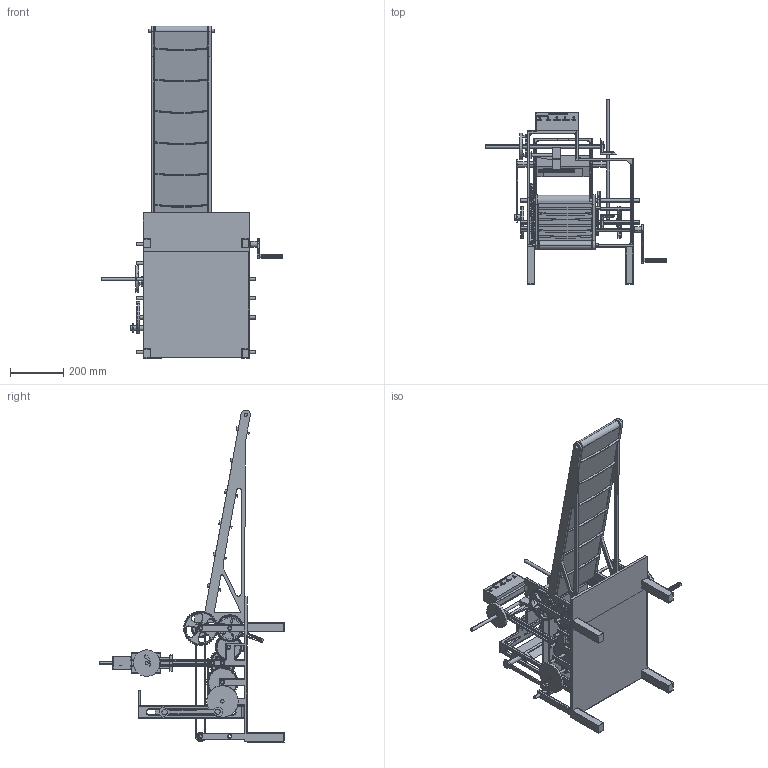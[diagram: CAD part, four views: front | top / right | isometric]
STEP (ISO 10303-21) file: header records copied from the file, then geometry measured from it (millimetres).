
FILE_DESCRIPTION(/* description */ (''),/* implementation_level */ '2;1');
FILE_NAME(/* name */ 'beltconveyor_a023_w200_l1200.stp',/* time_stamp */ '2024-12-15T21:22:04+08:00',/* author */ (''),/* organization */ (''),/* preprocessor_version */ 'ST-DEVELOPER v16.7',/* originating_system */ 'SIEMENS PLM Software NX 12.0',/* authorisation */ '');
FILE_SCHEMA (('AUTOMOTIVE_DESIGN { 1 0 10303 214 3 1 1 1 }'));
Products named in the file (25): cw2; b2; crankwheel; g7; srrr; shaft; g1; g9; g2; punch; g5; crr2; bg; g3; roller; TG; rd1; shaft78396; body; g8; blade; g4; belt; handle; beltconveyor_a023_w200_l1200
Assembly tree (45 placements, depth 2):
  beltconveyor_a023_w200_l1200
    handle
    belt
    g4
    blade
    g8  x2
    body
    shaft78396  x8
    rd1  x2
    TG  x5
    roller  x4
    g3  x2
    bg  x4
    crr2
    g5
    punch
    g2
    g9
    g1
    shaft
    srrr
    g7  x2
    crankwheel
    b2
    cw2
Bounding box: 682.27 x 694.75 x 1251.35 mm (x, y, z)
Volume: 7373633 mm3; surface area: 3722853.4 mm2
Topology: 81 solids, 85 shells, 5367 faces, 15958 edges, 10948 vertices
Faces by surface type: cylinder 2893, plane 1547, extrusion 369, cone 356, torus 192, bspline 10
Entity records: 166210 total; most frequent: CARTESIAN_POINT 43610, ORIENTED_EDGE 26112, DIRECTION 23802, EDGE_CURVE 13056, VERTEX_POINT 9026, AXIS2_PLACEMENT_3D 8725, VECTOR 6352, LINE 5983
